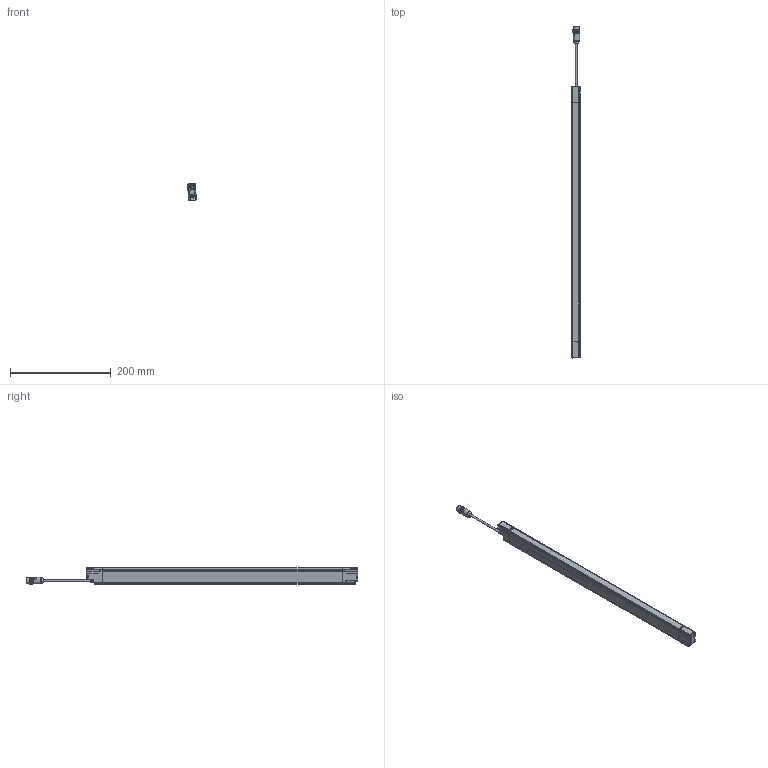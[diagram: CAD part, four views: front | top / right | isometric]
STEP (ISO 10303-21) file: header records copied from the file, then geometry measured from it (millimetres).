
FILE_DESCRIPTION(/* description */ (''),/* implementation_level */ '2;1');
FILE_NAME(/* name */ 'DSD0633.stp',/* time_stamp */ '2015-02-23T17:13:49+01:00',/* author */ (''),/* organization */ (''),/* preprocessor_version */ 'ST-DEVELOPER v11',/* originating_system */ 'SIEMENS PLM Software NX 7.5',/* authorisation */ '');
FILE_SCHEMA (('AUTOMOTIVE_DESIGN { 1 0 10303 214 1 1 1 1 }'));
Length unit declared in the file: millimetre
Products named in the file (1): AP008112_00
Bounding box: 17.36 x 660.24 x 33.46 mm (x, y, z)
Surface area: 130471.8 mm2 (no closed solid volume)
Topology: 0 solids, 42 shells, 4181 faces, 10846 edges, 6608 vertices
Faces by surface type: plane 1682, cylinder 1316, bspline 478, torus 258, cone 247, sphere 180, extrusion 20
Full cylindrical faces by diameter (mm): 0.7 x5, 0.8 x26, 1 x24, 1.2 x2, 1.6 x8, 1.7 x2, 1.75 x2, 1.886 x2, 1.9 x6, 2.6 x6, 4 x4, 6.8 x2, 7.2 x1, 7.4 x2, 8.3 x1, 9.4 x1, 9.5 x1, 10.4 x1, 12 x1, 13 x1, 13.5 x1, 14.5 x2
Entity records: 158387 total; most frequent: CARTESIAN_POINT 54764, ORIENTED_EDGE 20505, DIRECTION 20483, EDGE_CURVE 10419, AXIS2_PLACEMENT_3D 7428, VERTEX_POINT 6517, VECTOR 5627, LINE 5607
